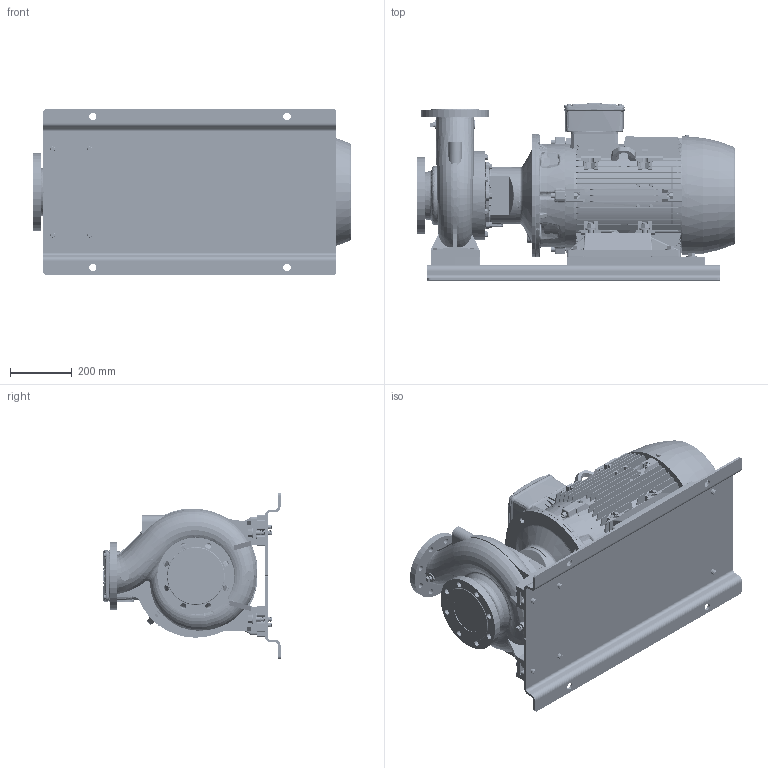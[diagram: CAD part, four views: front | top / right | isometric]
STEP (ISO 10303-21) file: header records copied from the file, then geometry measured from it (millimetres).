
FILE_DESCRIPTION (( 'STEP AP214' ), '1' );
FILE_NAME ('GSD2 100-200_30.0 & 37.0_(200ML)_W21_BP.STEP', '2024-08-02T04:46:51', ( '' ), ( '' ), 'SwSTEP 2.0', 'SolidWorks 2019', '' );
FILE_SCHEMA (( 'AUTOMOTIVE_DESIGN' ));
Length unit declared in the file: millimetre
Products named in the file (19): Parametric bolt_SFT-A359B; GSD2  100-200_30.0 & 37.0_(200ML)_W21_BP; CGS11-5321_2_3_4_5_CGS11-5322; Parametric bolt_SFT-A365B; Parametric Flat Washer_M16; Parametric bolt and washer_SFT-A365B; Parametric bolt and washer_SFT-A359B; 200M_L ALIE3_W21T_B35; N6S2 GSDA-627 F1-1832940-00; 80x25 - CGSDA-5271; 100-200-200M_L_______
Assembly tree (37 placements, depth 3):
  GSD2  100-200_30.0 & 37.0_(200ML)_W21_BP
    100-200-200M_L_______
    N6S2 GSDA-627 F1-1832940-00
    CGS11-5321_2_3_4_5_CGS11-5322  x2
    80x25 - CGSDA-5271  x2
    Parametric bolt and washer_SFT-A365B
      Parametric bolt_SFT-A365B
      Parametric Flat Washer_M16
    Parametric bolt and washer_SFT-A365B
      Parametric bolt_SFT-A365B
      Parametric Flat Washer_M16
    Parametric bolt and washer_SFT-A365B
      Parametric bolt_SFT-A365B
      Parametric Flat Washer_M16
    Parametric bolt and washer_SFT-A365B
      Parametric bolt_SFT-A365B
      Parametric Flat Washer_M16
    Parametric bolt and washer_SFT-A359B
      Parametric bolt_SFT-A359B
      Parametric Flat Washer_M16
    Parametric bolt and washer_SFT-A359B
      Parametric bolt_SFT-A359B
      Parametric Flat Washer_M16
    200M_L ALIE3_W21T_B35
    Parametric bolt and washer_SFT-A359B
      Parametric bolt_SFT-A359B
      Parametric Flat Washer_M16
    Parametric bolt and washer_SFT-A359B
      Parametric bolt_SFT-A359B
      Parametric Flat Washer_M16
    Parametric bolt and washer_SFT-A359B
      Parametric bolt_SFT-A359B
      Parametric Flat Washer_M16
    Parametric bolt and washer_SFT-A359B
      Parametric bolt_SFT-A359B
      Parametric Flat Washer_M16
Bounding box: 1033.8 x 574.5 x 540 mm (x, y, z)
Volume: 94952268.1 mm3; surface area: 5643582.7 mm2
Topology: 47 solids, 57 shells, 7339 faces, 18956 edges, 12150 vertices
Faces by surface type: plane 4245, cylinder 1314, bspline 1015, cone 570, torus 191, sphere 4
Entity records: 290140 total; most frequent: CARTESIAN_POINT 133823, ORIENTED_EDGE 34848, DIRECTION 28123, EDGE_CURVE 17424, VERTEX_POINT 11224, LINE 10741, VECTOR 10741, AXIS2_PLACEMENT_3D 8691
